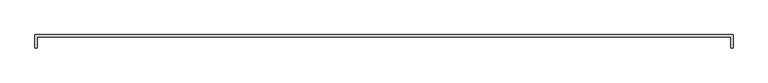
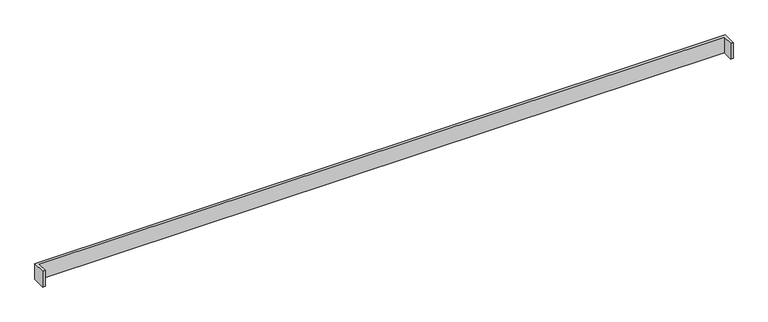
"""IFC4 building model written with IfcOpenShell, lengths in millimetres: proxy geometry, 常规模型 2 : 常规模型 2."""

from ifc_helpers import new_model, si_unit, frame, origin, place, context, project, spatial, polyline, outline, extrude, source, transform, mapped, element, save


def generic_models_640c696f(model_context):
    return source(origin(), model_context, "Body", "SweptSolid", [
        extrude(outline(polyline([(-3001.6711453, 3266.6904444), (5258.132234, 3266.6904444), (5258.132234, 3106.6904444), (5228.132234, 3106.6904444), (5228.132234, 3236.6904444), (-2971.6711453, 3236.6904444), (-2971.6711453, 3106.6904444), (-3001.6711453, 3106.6904444), (-3001.6711453, 3266.6904444)])), frame((0.0, 0.0, 2970.0), z_axis=(0.0, 0.0, 1.0), x_axis=(1.0, 0.0, 0.0)), (0.0, 0.0, 1.0), 200.0),
    ])


if __name__ == "__main__":
    model = new_model("IFC4")
    model_context = context("Model", 3, world=origin())
    ifc_project = project(units=[si_unit("LENGTHUNIT", "METRE", prefix="MILLI")], contexts=[model_context])
    site = spatial("IfcSite", under=ifc_project)
    building = spatial("IfcBuilding", under=site)
    placement = place(None, origin())
    generic_models_shape = generic_models_640c696f(model_context)
    element("IfcBuildingElementProxy", 1, Name="常规模型 2 : 常规模型 2", ObjectType="常规模型 2 : 常规模型 2", at=placement, inside=building, context=model_context, shape_type="MappedRepresentation", body=[
        mapped(generic_models_shape, transform((0.0, 0.0, 0.0), x_axis=(1.0, 0.0, 0.0), y_axis=(0.0, 1.0, 0.0), z_axis=(0.0, 0.0, 1.0))),
    ])
    save(model, "model.ifc")
